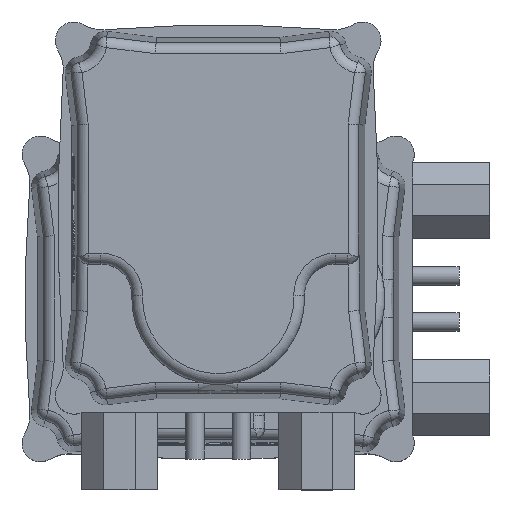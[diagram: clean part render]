
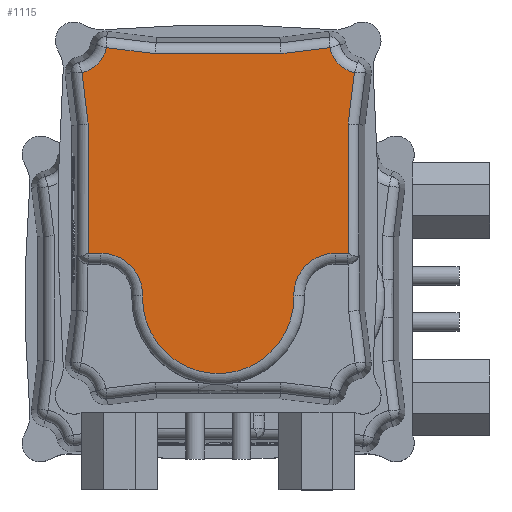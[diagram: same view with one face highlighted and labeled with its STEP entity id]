
A CAD part, top view. The second image highlights one B-rep face of the part: STEP entity #1115.
In plain terms, the highlighted planar face has unit normal (0, 0, 1).
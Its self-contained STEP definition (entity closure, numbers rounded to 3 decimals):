
#1115 = ADVANCED_FACE( '', ( #2570 ), #2571, .T. );
#2570 = FACE_OUTER_BOUND( '', #7676, .T. );
#2571 = PLANE( '', #7677 );
#7676 = EDGE_LOOP( '', ( #13048, #13049, #13050, #13051, #13052, #13053, #13054, #13055, #13056, #13057, #13058, #13059, #13060, #13061, #13062, #13063 ) );
#7677 = AXIS2_PLACEMENT_3D( '', #13064, #13065, #13066 );
#13048 = ORIENTED_EDGE( '', *, *, #16531, .T. );
#13049 = ORIENTED_EDGE( '', *, *, #16920, .T. );
#13050 = ORIENTED_EDGE( '', *, *, #16288, .T. );
#13051 = ORIENTED_EDGE( '', *, *, #16244, .T. );
#13052 = ORIENTED_EDGE( '', *, *, #16921, .T. );
#13053 = ORIENTED_EDGE( '', *, *, #15874, .T. );
#13054 = ORIENTED_EDGE( '', *, *, #16922, .T. );
#13055 = ORIENTED_EDGE( '', *, *, #16923, .T. );
#13056 = ORIENTED_EDGE( '', *, *, #16924, .T. );
#13057 = ORIENTED_EDGE( '', *, *, #16925, .T. );
#13058 = ORIENTED_EDGE( '', *, *, #16926, .T. );
#13059 = ORIENTED_EDGE( '', *, *, #16897, .T. );
#13060 = ORIENTED_EDGE( '', *, *, #16927, .T. );
#13061 = ORIENTED_EDGE( '', *, *, #16760, .T. );
#13062 = ORIENTED_EDGE( '', *, *, #16928, .T. );
#13063 = ORIENTED_EDGE( '', *, *, #16783, .T. );
#13064 = CARTESIAN_POINT( '', ( 47.227, -44.578, 84. ) );
#13065 = DIRECTION( '', ( 0., 0., 1. ) );
#13066 = DIRECTION( '', ( 1., 0., 0. ) );
#15874 = EDGE_CURVE( '', #17891, #17889, #17892, .T. );
#16244 = EDGE_CURVE( '', #18521, #18519, #18522, .T. );
#16288 = EDGE_CURVE( '', #18596, #18521, #18597, .F. );
#16531 = EDGE_CURVE( '', #18992, #18996, #18998, .T. );
#16760 = EDGE_CURVE( '', #19341, #19027, #19344, .T. );
#16783 = EDGE_CURVE( '', #19023, #18992, #19380, .T. );
#16897 = EDGE_CURVE( '', #19537, #19535, #19538, .T. );
#16920 = EDGE_CURVE( '', #18996, #18596, #19571, .T. );
#16921 = EDGE_CURVE( '', #18519, #17891, #19572, .T. );
#16922 = EDGE_CURVE( '', #17889, #19573, #19574, .T. );
#16923 = EDGE_CURVE( '', #19573, #19575, #19576, .F. );
#16924 = EDGE_CURVE( '', #19575, #19577, #19578, .T. );
#16925 = EDGE_CURVE( '', #19577, #19579, #19580, .F. );
#16926 = EDGE_CURVE( '', #19579, #19537, #19581, .T. );
#16927 = EDGE_CURVE( '', #19535, #19341, #19582, .T. );
#16928 = EDGE_CURVE( '', #19027, #19023, #19583, .F. );
#17889 = VERTEX_POINT( '', #20981 );
#17891 = VERTEX_POINT( '', #20983 );
#17892 = CIRCLE( '', #20984, 0.5 );
#18519 = VERTEX_POINT( '', #22943 );
#18521 = VERTEX_POINT( '', #22945 );
#18522 = LINE( '', #22946, #22947 );
#18596 = VERTEX_POINT( '', #23125 );
#18597 = CIRCLE( '', #23126, 10.907 );
#18992 = VERTEX_POINT( '', #24067 );
#18996 = VERTEX_POINT( '', #24072 );
#18998 = LINE( '', #24074, #24075 );
#19023 = VERTEX_POINT( '', #24217 );
#19027 = VERTEX_POINT( '', #24259 );
#19341 = VERTEX_POINT( '', #25112 );
#19344 = LINE( '', #25116, #25117 );
#19380 = LINE( '', #25163, #25164 );
#19535 = VERTEX_POINT( '', #25569 );
#19537 = VERTEX_POINT( '', #25592 );
#19538 = CIRCLE( '', #25593, 0.5 );
#19571 = LINE( '', #25668, #25669 );
#19572 = LINE( '', #25670, #25671 );
#19573 = VERTEX_POINT( '', #25672 );
#19574 = LINE( '', #25673, #25674 );
#19575 = VERTEX_POINT( '', #25675 );
#19576 = CIRCLE( '', #25676, 13.5 );
#19577 = VERTEX_POINT( '', #25677 );
#19578 = CIRCLE( '', #25678, 24.5 );
#19579 = VERTEX_POINT( '', #25679 );
#19580 = CIRCLE( '', #25680, 13.5 );
#19581 = LINE( '', #25681, #25682 );
#19582 = LINE( '', #25683, #25684 );
#19583 = CIRCLE( '', #25685, 10.907 );
#20981 = CARTESIAN_POINT( '', ( 11.5, -42., 84. ) );
#20983 = CARTESIAN_POINT( '', ( 11.491, -42.093, 84. ) );
#20984 = AXIS2_PLACEMENT_3D( '', #28291, #28292, #28293 );
#22943 = CARTESIAN_POINT( '', ( -30.331, -42.093, 84. ) );
#22945 = CARTESIAN_POINT( '', ( -46.913, -44.129, 84. ) );
#22946 = CARTESIAN_POINT( '', ( 45.775, -32.749, 84. ) );
#22947 = VECTOR( '', #28600, 1000. );
#23125 = CARTESIAN_POINT( '', ( -55.033, -36.126, 84. ) );
#23126 = AXIS2_PLACEMENT_3D( '', #28634, #28635, #28636 );
#24067 = CARTESIAN_POINT( '', ( -53.093, 20.331, 84. ) );
#24072 = CARTESIAN_POINT( '', ( -53.093, -20.331, 84. ) );
#24074 = CARTESIAN_POINT( '', ( -53.093, -44.578, 84. ) );
#24075 = VECTOR( '', #28877, 1000. );
#24217 = CARTESIAN_POINT( '', ( -55.033, 36.126, 84. ) );
#24259 = CARTESIAN_POINT( '', ( -46.913, 44.129, 84. ) );
#25112 = CARTESIAN_POINT( '', ( -30.331, 42.093, 84. ) );
#25116 = CARTESIAN_POINT( '', ( 56.559, 31.425, 84. ) );
#25117 = VECTOR( '', #29092, 1000. );
#25163 = CARTESIAN_POINT( '', ( -43.752, -55.749, 84. ) );
#25164 = VECTOR( '', #29130, 1000. );
#25569 = CARTESIAN_POINT( '', ( 11.491, 42.093, 84. ) );
#25592 = CARTESIAN_POINT( '', ( 11.5, 42., 84. ) );
#25593 = AXIS2_PLACEMENT_3D( '', #29210, #29211, #29212 );
#25668 = CARTESIAN_POINT( '', ( -54.536, -32.083, 84. ) );
#25669 = VECTOR( '', #29233, 1000. );
#25670 = CARTESIAN_POINT( '', ( 47.227, -42.093, 84. ) );
#25671 = VECTOR( '', #29234, 1000. );
#25672 = CARTESIAN_POINT( '', ( 11.5, -37.987, 84. ) );
#25673 = CARTESIAN_POINT( '', ( 11.5, -44.578, 84. ) );
#25674 = VECTOR( '', #29235, 1000. );
#25675 = CARTESIAN_POINT( '', ( 25.355, -24.492, 84. ) );
#25676 = AXIS2_PLACEMENT_3D( '', #29236, #29237, #29238 );
#25677 = CARTESIAN_POINT( '', ( 25.355, 24.492, 84. ) );
#25678 = AXIS2_PLACEMENT_3D( '', #29239, #29240, #29241 );
#25679 = CARTESIAN_POINT( '', ( 11.5, 37.987, 84. ) );
#25680 = AXIS2_PLACEMENT_3D( '', #29242, #29243, #29244 );
#25681 = CARTESIAN_POINT( '', ( 11.5, -44.578, 84. ) );
#25682 = VECTOR( '', #29245, 1000. );
#25683 = CARTESIAN_POINT( '', ( 47.227, 42.093, 84. ) );
#25684 = VECTOR( '', #29246, 1000. );
#25685 = AXIS2_PLACEMENT_3D( '', #29247, #29248, #29249 );
#28291 = CARTESIAN_POINT( '', ( 11., -42., 84. ) );
#28292 = DIRECTION( '', ( 0., 0., 1. ) );
#28293 = DIRECTION( '', ( 1., 0., 0. ) );
#28600 = DIRECTION( '', ( 0.993, 0.122, 0. ) );
#28634 = CARTESIAN_POINT( '', ( -57.5, -46.75, 84. ) );
#28635 = DIRECTION( '', ( 0., 0., 1. ) );
#28636 = DIRECTION( '', ( 1., 0., 0. ) );
#28877 = DIRECTION( '', ( 0., -1., 0. ) );
#29092 = DIRECTION( '', ( -0.993, 0.122, 0. ) );
#29130 = DIRECTION( '', ( 0.122, -0.993, 0. ) );
#29210 = CARTESIAN_POINT( '', ( 11., 42., 84. ) );
#29211 = DIRECTION( '', ( 0., 0., 1. ) );
#29212 = DIRECTION( '', ( 1., 0., 0. ) );
#29233 = DIRECTION( '', ( -0.122, -0.993, 0. ) );
#29234 = DIRECTION( '', ( 1., 0., 0. ) );
#29235 = DIRECTION( '', ( 0., 1., 0. ) );
#29236 = CARTESIAN_POINT( '', ( 25., -37.987, 84. ) );
#29237 = DIRECTION( '', ( 0., 0., 1. ) );
#29238 = DIRECTION( '', ( 1., 0., 0. ) );
#29239 = CARTESIAN_POINT( '', ( 26., 0., 84. ) );
#29240 = DIRECTION( '', ( 0., 0., 1. ) );
#29241 = DIRECTION( '', ( 1., 0., 0. ) );
#29242 = CARTESIAN_POINT( '', ( 25., 37.987, 84. ) );
#29243 = DIRECTION( '', ( 0., 0., 1. ) );
#29244 = DIRECTION( '', ( 1., 0., 0. ) );
#29245 = DIRECTION( '', ( 0., 1., 0. ) );
#29246 = DIRECTION( '', ( -1., 0., 0. ) );
#29247 = CARTESIAN_POINT( '', ( -57.5, 46.75, 84. ) );
#29248 = DIRECTION( '', ( 0., 0., 1. ) );
#29249 = DIRECTION( '', ( 1., 0., 0. ) );
